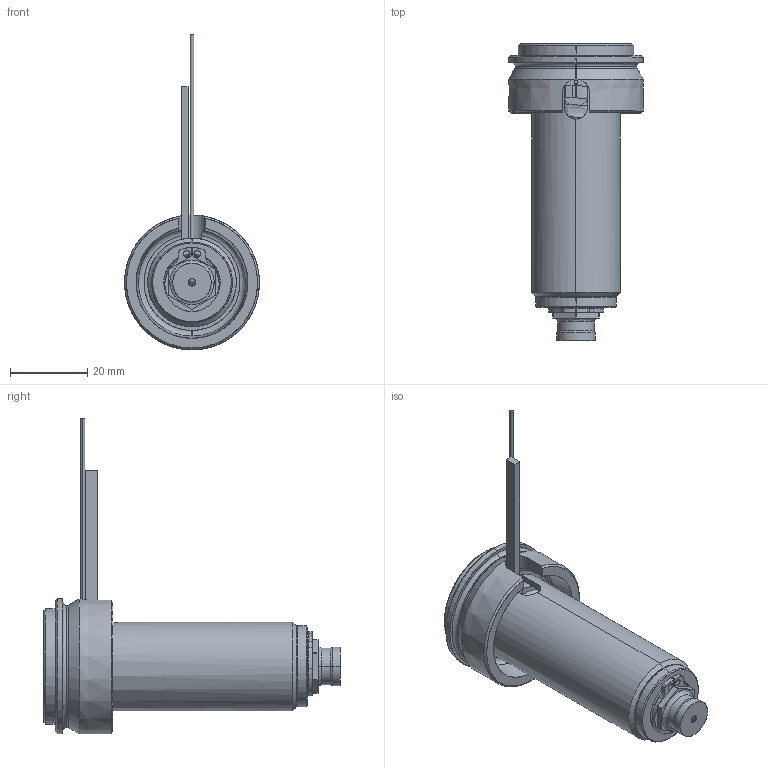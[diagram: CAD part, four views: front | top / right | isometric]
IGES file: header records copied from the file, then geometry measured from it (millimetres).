
Start section: SolidWorks IGES file using analytic representation for surfaces
Global section: file name: C:\Documents and Settings\ws-20\Desktop\TEM\UGEP3151-M-A-1 [Øf-0.70 P-0 ØC-6.0].IGS; native system: SolidWorks 2012; preprocessor: SolidWorks 2012; author: ws-20; date: 120404.080440; units: millimetre
Bounding box: 35 x 77 x 81.9 mm (x, y, z)
Surface area: 17118.3 mm2 (no closed solid volume)
Topology: 0 solids, 0 shells, 125 faces, 1780 edges, 1780 vertices
Faces by surface type: revolution 76, bspline 49
